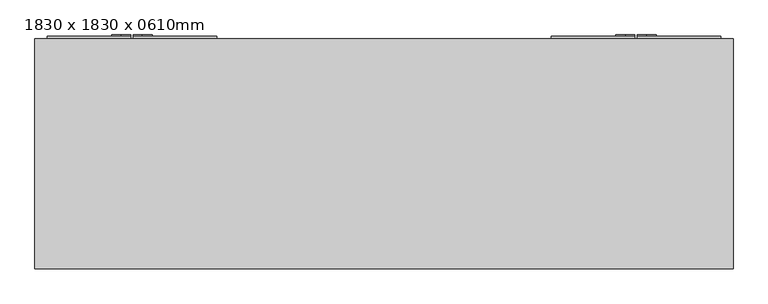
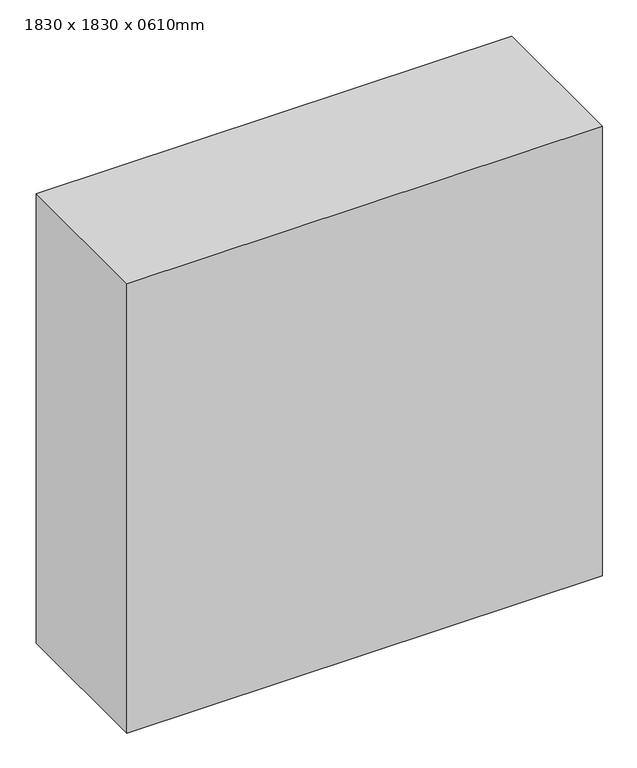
"""IFC4 building model written with IfcOpenShell, lengths in millimetres: furniture geometry, M_Centro de entretenimiento : 1830 x 1830 x 0610mm."""

import ifcopenshell
import ifcopenshell.guid

model = None  # the IFC model being written
_history = None  # IfcOwnerHistory: only IFC2X3 demands one
_inside = {}  # id of a spatial element -> (the spatial element, [elements in it])
_under = {}  # id of a project, library or spatial element -> (it, [spatial elements below it])
_declared = {}  # id of a project -> (the project, [libraries it declares])
_typed = {}  # id of a type object -> (the type object, [elements of that type])
_made_of = {}  # id of a material, layer set ... -> (it, [elements and type objects made of it])


def new_model(schema):
    """Start an empty IFC model of exactly this schema.

    Asked for "IFC4X3", IfcOpenShell would pick the latest addendum, in which some entities
    have other attributes; the version numbers below select the first issue.
    IFC2X3 requires an IfcOwnerHistory on every rooted entity: one is made here for all.
    """
    global model, _history
    if schema == "IFC4X3":
        model = ifcopenshell.file(schema_version=(4, 3, 0, 0))
    else:
        model = ifcopenshell.file(schema=schema)
    _inside.clear()
    _under.clear()
    _declared.clear()
    _typed.clear()
    _made_of.clear()
    _history = None
    if model.schema == "IFC2X3":
        org = make("IfcOrganization", Name="unknown")
        user = make(
            "IfcPersonAndOrganization",
            ThePerson=make("IfcPerson", FamilyName="unknown"),
            TheOrganization=org,
        )
        app = make(
            "IfcApplication",
            ApplicationDeveloper=org,
            Version="unknown",
            ApplicationFullName="unknown",
            ApplicationIdentifier="unknown",
        )
        _history = make(
            "IfcOwnerHistory",
            OwningUser=user,
            OwningApplication=app,
            ChangeAction="ADDED",
            CreationDate=0,
        )
    return model


def make(cls, **values):
    """One entity of the class cls with the attributes given. An attribute that is None is left unset."""
    return model.create_entity(
        cls, **{name: value for name, value in values.items() if value is not None}
    )


def rooted(cls, **values):
    """An entity with a GlobalId (a new one), such as an element, a storey or a relation."""
    return make(cls, GlobalId=ifcopenshell.guid.new(), OwnerHistory=_history, **values)


def si_unit(unit_type, name, prefix=None):
    """IfcSIUnit, for example si_unit("LENGTHUNIT", "METRE", prefix="MILLI")."""
    return make("IfcSIUnit", UnitType=unit_type, Prefix=prefix, Name=name)


def assignment(units):
    """IfcUnitAssignment: the units of a project."""
    return None if units is None else make("IfcUnitAssignment", Units=units)


def point(xyz):
    """IfcCartesianPoint."""
    return None if xyz is None else make("IfcCartesianPoint", Coordinates=xyz)


def direction(xyz):
    """IfcDirection."""
    return None if xyz is None else make("IfcDirection", DirectionRatios=xyz)


def frame(location, z_axis=None, x_axis=None):
    """IfcAxis2Placement3D, a coordinate frame: its origin and axes. An axis left out is left unset."""
    return make(
        "IfcAxis2Placement3D",
        Location=point(location),
        Axis=direction(z_axis),
        RefDirection=direction(x_axis),
    )


def frame_2d(location, x_axis=None):
    """IfcAxis2Placement2D, a coordinate frame in the plane: its origin and x axis."""
    return make(
        "IfcAxis2Placement2D", Location=point(location), RefDirection=direction(x_axis)
    )


def origin():
    """The frame at (0, 0, 0) with its axes left unset."""
    return frame((0.0, 0.0, 0.0))


def place(relative_to, where):
    """IfcLocalPlacement: puts the frame where relative to a parent placement (None: the world)."""
    return make(
        "IfcLocalPlacement", PlacementRelTo=relative_to, RelativePlacement=where
    )


def context(
    kind, dimensions, precision=None, world=None, true_north=None, identifier=None
):
    """IfcGeometricRepresentationContext, for example the 3D "Model" context."""
    return make(
        "IfcGeometricRepresentationContext",
        ContextIdentifier=identifier,
        ContextType=kind,
        CoordinateSpaceDimension=dimensions,
        Precision=precision,
        WorldCoordinateSystem=world,
        TrueNorth=true_north,
    )


def project(units=None, contexts=None):
    """IfcProject with its units and contexts."""
    return rooted(
        "IfcProject",
        Name="project",
        RepresentationContexts=contexts,
        UnitsInContext=assignment(units),
    )


def spatial(cls, under=None, at=None, **own):
    """A site, building, storey or space (cls), placed at a placement, below another one or the project."""
    s = rooted(cls, ObjectPlacement=at, **own)
    if under is not None:
        _under.setdefault(under.id(), (under, []))[1].append(s)
    return s


def polyline(points):
    """IfcPolyline through the points."""
    return make("IfcPolyline", Points=[point(p) for p in points])


def circle_curve(where, radius):
    """IfcCircle in the frame where."""
    return make("IfcCircle", Position=where, Radius=radius)


def trimmed(basis, trim1, trim2, sense, master):
    """IfcTrimmedCurve: the piece of a basis curve between two trims."""
    return make(
        "IfcTrimmedCurve",
        BasisCurve=basis,
        Trim1=trim1,
        Trim2=trim2,
        SenseAgreement=sense,
        MasterRepresentation=master,
    )


def segment(curve, same_sense, transition):
    """IfcCompositeCurveSegment."""
    return make(
        "IfcCompositeCurveSegment",
        Transition=transition,
        SameSense=same_sense,
        ParentCurve=curve,
    )


def composite_curve(segments, self_intersect=None):
    """IfcCompositeCurve: segments joined end to end."""
    return make("IfcCompositeCurve", Segments=segments, SelfIntersect=self_intersect)


def outline(outer, holes=None, kind="AREA"):
    """IfcArbitraryClosedProfileDef: a profile drawn as a closed curve; with holes, ...WithVoids."""
    if holes is None:
        return make("IfcArbitraryClosedProfileDef", ProfileType=kind, OuterCurve=outer)
    return make(
        "IfcArbitraryProfileDefWithVoids",
        ProfileType=kind,
        OuterCurve=outer,
        InnerCurves=holes,
    )


def extrude(swept, where, along, depth):
    """IfcExtrudedAreaSolid: the profile swept, set in the frame where, extruded along a direction by depth."""
    return make(
        "IfcExtrudedAreaSolid",
        SweptArea=swept,
        Position=where,
        ExtrudedDirection=direction(along),
        Depth=depth,
    )


def faces_of(points, faces, orient=None, outer=None):
    """IfcFace entities. A face is a list of loops; a loop is a list of indices into points, from 0.

    orient and outer hold one flag for each loop. By default every Orientation is true, the
    first loop of a face is its IfcFaceOuterBound and the others are IfcFaceBound.
    """
    made = []
    for i, loops in enumerate(faces):
        bounds = []
        for j, loop in enumerate(loops):
            is_outer = j == 0 if outer is None else outer[i][j]
            bounds.append(
                make(
                    "IfcFaceOuterBound" if is_outer else "IfcFaceBound",
                    Bound=make("IfcPolyLoop", Polygon=[points[k] for k in loop]),
                    Orientation=True if orient is None else orient[i][j],
                )
            )
        made.append(make("IfcFace", Bounds=bounds))
    return made


def faceted_brep(points, faces, orient=None, outer=None, voids=None):
    """IfcFacetedBrep: a solid bounded by flat faces; with voids (closed shells), ...WithVoids."""
    shared = [point(p) for p in points]
    hull = make("IfcClosedShell", CfsFaces=faces_of(shared, faces, orient, outer))
    if voids is None:
        return make("IfcFacetedBrep", Outer=hull)
    return make(
        "IfcFacetedBrepWithVoids",
        Outer=hull,
        Voids=[
            make(cls, CfsFaces=faces_of(shared, fs, o, b)) for cls, fs, o, b in voids
        ],
    )


def shape(context_of_items, identifier, shape_type, items):
    """IfcShapeRepresentation: the items that make up one representation, for example the "Body"."""
    return make(
        "IfcShapeRepresentation",
        ContextOfItems=context_of_items,
        RepresentationIdentifier=identifier,
        RepresentationType=shape_type,
        Items=items,
    )


def source(mapping_origin, context_of_items, identifier, shape_type, items):
    """IfcRepresentationMap: a shape defined once, which mapped items show again and again."""
    return make(
        "IfcRepresentationMap",
        MappingOrigin=mapping_origin,
        MappedRepresentation=shape(context_of_items, identifier, shape_type, items),
    )


def transform(
    local_origin,
    x_axis=None,
    y_axis=None,
    z_axis=None,
    scale=None,
    scale2=None,
    scale3=None,
    uniform=True,
):
    """IfcCartesianTransformationOperator3D, or its non-uniform kind. x_axis, y_axis, z_axis: its Axis1, 2, 3."""
    if uniform:
        return make(
            "IfcCartesianTransformationOperator3D",
            Axis1=direction(x_axis),
            Axis2=direction(y_axis),
            LocalOrigin=point(local_origin),
            Scale=scale,
            Axis3=direction(z_axis),
        )
    return make(
        "IfcCartesianTransformationOperator3DnonUniform",
        Axis1=direction(x_axis),
        Axis2=direction(y_axis),
        LocalOrigin=point(local_origin),
        Scale=scale,
        Axis3=direction(z_axis),
        Scale2=scale2,
        Scale3=scale3,
    )


def mapped(mapping_source, mapping_target):
    """IfcMappedItem: shows the shape of a source again, moved by a transform."""
    return make(
        "IfcMappedItem", MappingSource=mapping_source, MappingTarget=mapping_target
    )


def made_of(thing, what):
    """Note that an element or type object is made of a material, layer set ...; save() writes the relation."""
    if what is not None:
        _made_of.setdefault(what.id(), (what, []))[1].append(thing)
    return thing


def element(
    cls,
    number,
    at=None,
    inside=None,
    cuts=None,
    type_object=None,
    material=None,
    context=None,
    identifier="Body",
    shape_type=None,
    held_by="IfcProductDefinitionShape",
    body=None,
    shapes=None,
    **own,
):
    """One element of the class cls, such as IfcWall. Its Tag is "e" and its number.

    at: its placement. inside: the storey or other place that contains it. cuts: it is an
    opening in that element (IfcRelVoidsElement). A single representation is given by context,
    identifier, shape_type and body (its items); several are given by shapes. held_by: the class
    of the entity that holds the representations. save() writes the other relations.
    """
    e = rooted(cls, Tag="e%d" % number, ObjectPlacement=at, **own)
    if body is not None:
        shapes = [shape(context, identifier, shape_type, body)]
    if shapes is not None:
        e.Representation = make(held_by, Representations=shapes)
    if inside is not None:
        _inside.setdefault(inside.id(), (inside, []))[1].append(e)
    if cuts is not None:
        rooted(
            "IfcRelVoidsElement", RelatingBuildingElement=cuts, RelatedOpeningElement=e
        )
    if type_object is not None:
        _typed.setdefault(type_object.id(), (type_object, []))[1].append(e)
    return made_of(e, material)


def aggregate(whole, parts):
    """IfcRelAggregates: a whole, such as a stair, and the parts it consists of."""
    return rooted("IfcRelAggregates", RelatingObject=whole, RelatedObjects=parts)


def save(model, path):
    """Write the relations noted so far, then the file.

    IfcRelAggregates (storeys below a building ...), IfcRelContainedInSpatialStructure (elements
    in a storey), IfcRelDefinesByType, IfcRelAssociatesMaterial and IfcRelDeclares: one each for
    every whole, place, type object, material and project.
    """
    for whole, parts in _under.values():
        aggregate(whole, parts)
    for where, things in _inside.values():
        rooted(
            "IfcRelContainedInSpatialStructure",
            RelatedElements=things,
            RelatingStructure=where,
        )
    for kind, things in _typed.values():
        rooted("IfcRelDefinesByType", RelatedObjects=things, RelatingType=kind)
    for what, things in _made_of.values():
        rooted("IfcRelAssociatesMaterial", RelatedObjects=things, RelatingMaterial=what)
    for by, libraries in _declared.values():
        rooted("IfcRelDeclares", RelatingContext=by, RelatedDefinitions=libraries)
    model.write(path)


def furniture_1830_x_1830_x_0610mm_7520c3c2(model_context):
    return source(origin(), model_context, "Body", "SolidModel", [
        extrude(outline(polyline([(-883.25, 705.05), (-883.25, 711.4), (-663.925, 711.4), (-663.925, 705.05), (-883.25, 705.05)])), frame((0.0, 0.0, 50.8), z_axis=(0.0, 0.0, 1.0), x_axis=(1.0, 0.0, 0.0)), (0.0, 0.0, 1.0), 1747.45),
        extrude(outline(polyline([(-657.575, 705.05), (-657.575, 711.4), (-438.25, 711.4), (-438.25, 705.05), (-657.575, 705.05)])), frame((0.0, 0.0, 50.8), z_axis=(0.0, 0.0, 1.0), x_axis=(1.0, 0.0, 0.0)), (0.0, 0.0, 1.0), 1747.45),
        extrude(outline(polyline([(663.925, 705.05), (663.925, 711.4), (883.25, 711.4), (883.25, 705.05), (663.925, 705.05)])), frame((0.0, 0.0, 50.8), z_axis=(0.0, 0.0, 1.0), x_axis=(1.0, 0.0, 0.0)), (0.0, 0.0, 1.0), 1747.45),
        extrude(outline(polyline([(438.25, 705.05), (438.25, 711.4), (657.575, 711.4), (657.575, 705.05), (438.25, 705.05)])), frame((0.0, 0.0, 50.8), z_axis=(0.0, 0.0, 1.0), x_axis=(1.0, 0.0, 0.0)), (0.0, 0.0, 1.0), 1747.45),
        extrude(outline(composite_curve([segment(polyline([(1003.9, -633.3486452), (1003.9, -657.575), (826.1, -657.575), (826.1, -633.3486452)]), True, "CONTINUOUS"), segment(trimmed(circle_curve(frame_2d((851.5, -633.3486452)), 25.4), [point((826.1, -633.3486452))], [point((851.5, -607.9486452))], False, "CARTESIAN"), True, "CONTINUOUS"), segment(polyline([(851.5, -607.9486452), (978.5, -607.9486452)]), True, "CONTINUOUS"), segment(trimmed(circle_curve(frame_2d((978.5, -633.3486452)), 25.4), [point((978.5, -607.9486452))], [point((1003.9, -633.3486452))], False, "CARTESIAN"), True, "CONTINUOUS")], self_intersect=False)), frame((0.0, 711.4, 0.0), z_axis=(0.0, 1.0, 0.0), x_axis=(0.0, 0.0, 1.0)), (0.0, 0.0, 1.0), 3.175),
        extrude(outline(composite_curve([segment(trimmed(circle_curve(frame_2d((978.5, -688.53125)), 25.4), [point((1003.9, -688.53125))], [point((978.5, -713.93125))], False, "CARTESIAN"), True, "CONTINUOUS"), segment(polyline([(978.5, -713.93125), (851.5, -713.93125)]), True, "CONTINUOUS"), segment(trimmed(circle_curve(frame_2d((851.5, -688.53125)), 25.4), [point((851.5, -713.93125))], [point((826.1, -688.53125))], False, "CARTESIAN"), True, "CONTINUOUS"), segment(polyline([(826.1, -688.53125), (826.1, -663.925), (1003.9, -663.925), (1003.9, -688.53125)]), True, "CONTINUOUS")], self_intersect=False)), frame((0.0, 711.4, 0.0), z_axis=(0.0, 1.0, 0.0), x_axis=(0.0, 0.0, 1.0)), (0.0, 0.0, 1.0), 3.175),
        extrude(outline(composite_curve([segment(trimmed(circle_curve(frame_2d((978.5, 633.3486452)), 25.4), [point((1003.9, 633.3486452))], [point((978.5, 607.9486452))], False, "CARTESIAN"), True, "CONTINUOUS"), segment(polyline([(978.5, 607.9486452), (851.5, 607.9486452)]), True, "CONTINUOUS"), segment(trimmed(circle_curve(frame_2d((851.5, 633.3486452)), 25.4), [point((851.5, 607.9486452))], [point((826.1, 633.3486452))], False, "CARTESIAN"), True, "CONTINUOUS"), segment(polyline([(826.1, 633.3486452), (826.1, 657.575), (1003.9, 657.575), (1003.9, 633.3486452)]), True, "CONTINUOUS")], self_intersect=False)), frame((0.0, 711.4, 0.0), z_axis=(0.0, 1.0, 0.0), x_axis=(0.0, 0.0, 1.0)), (0.0, 0.0, 1.0), 3.175),
        extrude(outline(composite_curve([segment(polyline([(1003.9, 688.53125), (1003.9, 663.925), (826.1, 663.925), (826.1, 688.53125)]), True, "CONTINUOUS"), segment(trimmed(circle_curve(frame_2d((851.5, 688.53125)), 25.4), [point((826.1, 688.53125))], [point((851.5, 713.93125))], False, "CARTESIAN"), True, "CONTINUOUS"), segment(polyline([(851.5, 713.93125), (978.5, 713.93125)]), True, "CONTINUOUS"), segment(trimmed(circle_curve(frame_2d((978.5, 688.53125)), 25.4), [point((978.5, 713.93125))], [point((1003.9, 688.53125))], False, "CARTESIAN"), True, "CONTINUOUS")], self_intersect=False)), frame((0.0, 711.4, 0.0), z_axis=(0.0, 1.0, 0.0), x_axis=(0.0, 0.0, 1.0)), (0.0, 0.0, 1.0), 3.175),
        faceted_brep([(915.0, 705.05, 0.0), (-915.0, 705.05, 0.0), (-915.0, 705.05, 1830.0), (915.0, 705.05, 1830.0), (-457.3, 705.05, 1779.2), (-864.2, 705.05, 1779.2), (-864.2, 705.05, 1385.2), (-457.3, 705.05, 1385.2), (-457.3, 705.05, 76.2), (-457.3, 705.05, 444.8), (-864.2, 705.05, 444.8), (-864.2, 705.05, 76.2), (864.2, 705.05, 1385.2), (864.2, 705.05, 1779.2), (457.3, 705.05, 1779.2), (457.3, 705.05, 1385.2), (-406.5, 705.05, 737.2), (406.5, 705.05, 737.2), (406.5, 705.05, 1779.2), (-406.5, 705.05, 1779.2), (406.5, 705.05, 76.2), (406.5, 705.05, 381.3), (-406.5, 705.05, 381.3), (-406.5, 705.05, 76.2), (864.2, 705.05, 76.2), (864.2, 705.05, 444.8), (457.3, 705.05, 444.8), (457.3, 705.05, 76.2), (-864.2, 705.05, 470.2), (-457.3, 705.05, 470.2), (-457.3, 705.05, 902.3), (-864.2, 705.05, 902.3), (-457.3, 705.05, 1359.8), (-864.2, 705.05, 1359.8), (-864.2, 705.05, 927.7), (-457.3, 705.05, 927.7), (457.3, 705.05, 1359.8), (457.3, 705.05, 927.7), (864.2, 705.05, 927.7), (864.2, 705.05, 1359.8), (457.3, 705.05, 902.3), (457.3, 705.05, 470.2), (864.2, 705.05, 470.2), (864.2, 705.05, 902.3), (406.5, 705.05, 406.7), (406.5, 705.05, 711.8), (-406.5, 705.05, 711.8), (-406.5, 705.05, 406.7), (915.0, 101.4, 0.0), (915.0, 101.4, 1830.0), (-915.0, 101.4, 1830.0), (-915.0, 101.4, 0.0), (-457.3, 126.8, 1385.2), (-457.3, 126.8, 1779.2), (-864.2, 126.8, 1385.2), (-864.2, 126.8, 1779.2), (-864.2, 126.8, 76.2), (-457.3, 126.8, 76.2), (-864.2, 126.8, 444.8), (-457.3, 126.8, 444.8), (457.3, 126.8, 1385.2), (864.2, 126.8, 1385.2), (457.3, 126.8, 1779.2), (864.2, 126.8, 1779.2), (-406.5, 126.8, 1779.2), (-406.5, 126.8, 737.2), (406.5, 126.8, 1779.2), (406.5, 126.8, 737.2), (-406.5, 126.8, 76.2), (406.5, 126.8, 76.2), (-406.5, 126.8, 381.3), (406.5, 126.8, 381.3), (457.3, 126.8, 76.2), (864.2, 126.8, 76.2), (457.3, 126.8, 444.8), (864.2, 126.8, 444.8), (-864.2, 126.8, 902.3), (-864.2, 126.8, 470.2), (-457.3, 126.8, 902.3), (-457.3, 126.8, 470.2), (-457.3, 126.8, 927.7), (-457.3, 126.8, 1359.8), (-864.2, 126.8, 927.7), (-864.2, 126.8, 1359.8), (864.2, 126.8, 1359.8), (457.3, 126.8, 1359.8), (864.2, 126.8, 927.7), (457.3, 126.8, 927.7), (864.2, 126.8, 902.3), (457.3, 126.8, 902.3), (864.2, 126.8, 470.2), (457.3, 126.8, 470.2), (-406.5, 126.8, 406.7), (406.5, 126.8, 406.7), (-406.5, 126.8, 711.8), (406.5, 126.8, 711.8)], [[[0, 1, 2, 3], [4, 5, 6, 7], [8, 9, 10, 11], [12, 13, 14, 15], [16, 17, 18, 19], [20, 21, 22, 23], [24, 25, 26, 27], [28, 29, 30, 31], [32, 33, 34, 35], [36, 37, 38, 39], [40, 41, 42, 43], [44, 45, 46, 47]], [[48, 49, 50, 51]], [[3, 49, 48, 0]], [[2, 50, 49, 3]], [[1, 51, 50, 2]], [[0, 48, 51, 1]], [[7, 52, 53, 4]], [[6, 54, 52, 7]], [[5, 55, 54, 6]], [[4, 53, 55, 5]], [[11, 56, 57, 8]], [[10, 58, 56, 11]], [[9, 59, 58, 10]], [[8, 57, 59, 9]], [[15, 60, 61, 12]], [[14, 62, 60, 15]], [[13, 63, 62, 14]], [[12, 61, 63, 13]], [[19, 64, 65, 16]], [[18, 66, 64, 19]], [[17, 67, 66, 18]], [[16, 65, 67, 17]], [[23, 68, 69, 20]], [[22, 70, 68, 23]], [[21, 71, 70, 22]], [[20, 69, 71, 21]], [[27, 72, 73, 24]], [[26, 74, 72, 27]], [[25, 75, 74, 26]], [[24, 73, 75, 25]], [[31, 76, 77, 28]], [[30, 78, 76, 31]], [[29, 79, 78, 30]], [[28, 77, 79, 29]], [[35, 80, 81, 32]], [[34, 82, 80, 35]], [[33, 83, 82, 34]], [[32, 81, 83, 33]], [[39, 84, 85, 36]], [[38, 86, 84, 39]], [[37, 87, 86, 38]], [[36, 85, 87, 37]], [[43, 88, 89, 40]], [[42, 90, 88, 43]], [[41, 91, 90, 42]], [[40, 89, 91, 41]], [[47, 92, 93, 44]], [[46, 94, 92, 47]], [[45, 95, 94, 46]], [[44, 93, 95, 45]], [[52, 54, 55, 53]], [[56, 58, 59, 57]], [[60, 62, 63, 61]], [[64, 66, 67, 65]], [[68, 70, 71, 69]], [[72, 74, 75, 73]], [[76, 78, 79, 77]], [[80, 82, 83, 81]], [[84, 86, 87, 85]], [[88, 90, 91, 89]], [[92, 94, 95, 93]]]),
    ])


if __name__ == "__main__":
    model = new_model("IFC4")
    model_context = context("Model", 3, world=origin())
    ifc_project = project(units=[si_unit("LENGTHUNIT", "METRE", prefix="MILLI")], contexts=[model_context])
    site = spatial("IfcSite", under=ifc_project)
    building = spatial("IfcBuilding", under=site)
    placement = place(None, origin())
    furniture_1830_x_1830_x_0610mm_shape = furniture_1830_x_1830_x_0610mm_7520c3c2(model_context)
    element("IfcFurniture", 1, ObjectType="M_Centro de entretenimiento : 1830 x 1830 x 0610mm", at=placement, inside=building, context=model_context, shape_type="MappedRepresentation", body=[
        mapped(furniture_1830_x_1830_x_0610mm_shape, transform((0.0, 0.0, 0.0), x_axis=(1.0, 0.0, 0.0), y_axis=(0.0, 1.0, 0.0), z_axis=(0.0, 0.0, 1.0))),
    ])
    save(model, "model.ifc")
